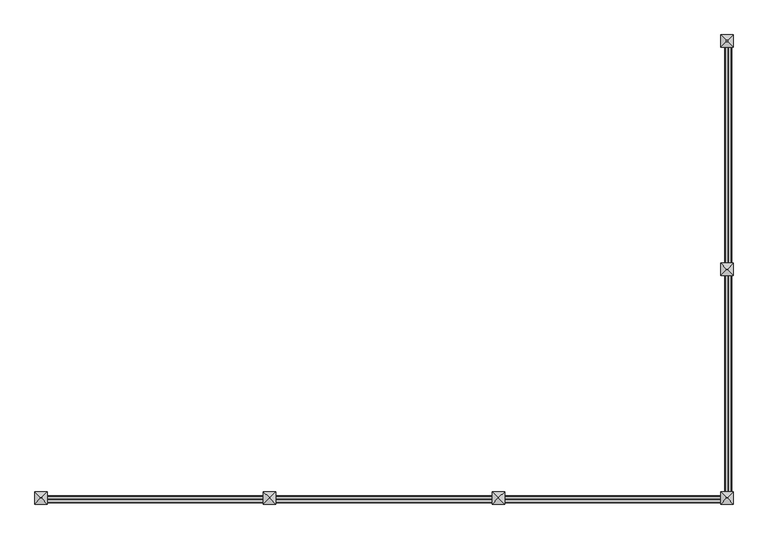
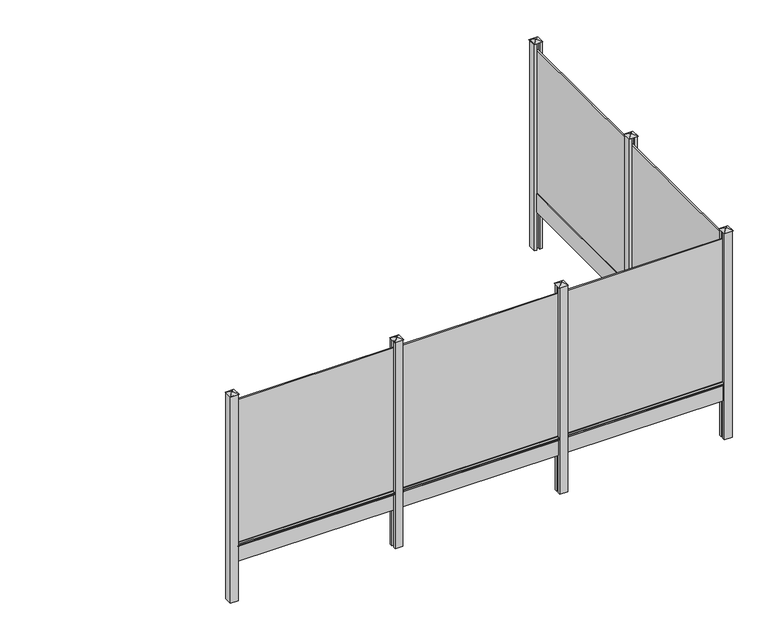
"""IFC4 building model written with IfcOpenShell, lengths in millimetres: railing geometry, Mehat - Railing - Plaque de Soubassement - Classique pour clôture rigide - 202.5x25x3.8 cm."""

from ifc_helpers import new_model, si_unit, point, frame, frame_2d, origin, origin_with_axes, place, context, project, spatial, polyline, circle_curve, trimmed, segment, composite_curve, outline, extrude, faceted_brep, source, transform, mapped, element, save


def railing_0396a7d8(model_context):
    return source(origin(), model_context, "Body", "SolidModel", [
        extrude(outline(polyline([(102357.2728823, -11586.7922579), (102340.2728823, -11586.7922579), (102340.2728823, -9561.7922579), (102357.2728823, -9561.7922579), (102357.2728823, -11586.7922579)])), frame((0.0, 0.0, 250.0), z_axis=(0.0, 0.0, 1.0), x_axis=(1.0, 0.0, 0.0)), (0.0, 0.0, 1.0), 1900.0),
        extrude(outline(polyline([(102367.7728823, -11586.7922579), (102329.7728823, -11586.7922579), (102329.7728823, -9561.7922579), (102367.7728823, -9561.7922579), (102367.7728823, -11586.7922579)])), origin_with_axes(), (0.0, 0.0, 1.0), 250.0),
        extrude(outline(composite_curve([segment(polyline([(210.0, 102367.7728823), (217.1937129, 102389.3540211)]), True, "CONTINUOUS"), segment(trimmed(circle_curve(frame_2d((221.9371294, 102387.7728823)), 5.0), [point((217.1937129, 102389.3540211))], [point((221.9371294, 102392.7728823))], False, "CARTESIAN"), True, "CONTINUOUS"), segment(polyline([(221.9371294, 102392.7728823), (238.0628706, 102392.7728823)]), True, "CONTINUOUS"), segment(trimmed(circle_curve(frame_2d((238.0628706, 102387.7728823)), 5.0), [point((238.0628706, 102392.7728823))], [point((242.8062871, 102389.3540211))], False, "CARTESIAN"), True, "CONTINUOUS"), segment(polyline([(242.8062871, 102389.3540211), (250.0, 102367.7728823), (210.0, 102367.7728823)]), True, "CONTINUOUS")], self_intersect=False)), frame((0.0, -11561.7922579, 0.0), z_axis=(0.0, 1.0, 0.0), x_axis=(0.0, 0.0, 1.0)), (0.0, 0.0, 1.0), 1975.0),
        extrude(outline(polyline([(102398.7728823, -11661.7922579), (102367.7728823, -11661.7922579), (102367.7728823, -11636.7922579), (102329.7728823, -11636.7922579), (102329.7728823, -11661.7922579), (102298.7728823, -11661.7922579), (102298.7728823, -11561.7922579), (102329.7728823, -11561.7922579), (102329.7728823, -11586.7922579), (102367.7728823, -11586.7922579), (102367.7728823, -11561.7922579), (102398.7728823, -11561.7922579), (102398.7728823, -11661.7922579)])), frame((0.0, 0.0, -500.0), z_axis=(0.0, 0.0, 1.0), x_axis=(1.0, 0.0, 0.0)), (0.0, 0.0, 1.0), 2750.0),
        faceted_brep([(102342.3683362, -11605.4422579, 2275.4), (102342.3683362, -11618.1422579, 2275.4), (102355.0683362, -11618.1422579, 2275.4), (102355.0683362, -11605.4422579, 2275.4), (102292.4228823, -11555.4422579, 2250.0), (102405.1228823, -11555.4422579, 2250.0), (102405.1228823, -11668.1422579, 2250.0), (102292.4228823, -11668.1422579, 2250.0)], [[[0, 1, 2, 3]], [[4, 5, 6, 7]], [[4, 0, 3, 5]], [[5, 3, 2, 6]], [[6, 2, 1, 7]], [[7, 1, 0, 4]]]),
        extrude(outline(polyline([(102357.2728823, -13661.7922579), (102340.2728823, -13661.7922579), (102340.2728823, -11636.7922579), (102357.2728823, -11636.7922579), (102357.2728823, -13661.7922579)])), frame((0.0, 0.0, 250.0), z_axis=(0.0, 0.0, 1.0), x_axis=(1.0, 0.0, 0.0)), (0.0, 0.0, 1.0), 1900.0),
        extrude(outline(polyline([(102367.7728823, -13661.7922579), (102329.7728823, -13661.7922579), (102329.7728823, -11636.7922579), (102367.7728823, -11636.7922579), (102367.7728823, -13661.7922579)])), origin_with_axes(), (0.0, 0.0, 1.0), 250.0),
        extrude(outline(composite_curve([segment(polyline([(210.0, 102367.7728823), (217.1937129, 102389.3540211)]), True, "CONTINUOUS"), segment(trimmed(circle_curve(frame_2d((221.9371294, 102387.7728823)), 5.0), [point((217.1937129, 102389.3540211))], [point((221.9371294, 102392.7728823))], False, "CARTESIAN"), True, "CONTINUOUS"), segment(polyline([(221.9371294, 102392.7728823), (238.0628706, 102392.7728823)]), True, "CONTINUOUS"), segment(trimmed(circle_curve(frame_2d((238.0628706, 102387.7728823)), 5.0), [point((238.0628706, 102392.7728823))], [point((242.8062871, 102389.3540211))], False, "CARTESIAN"), True, "CONTINUOUS"), segment(polyline([(242.8062871, 102389.3540211), (250.0, 102367.7728823), (210.0, 102367.7728823)]), True, "CONTINUOUS")], self_intersect=False)), frame((0.0, -13636.7922579, 0.0), z_axis=(0.0, 1.0, 0.0), x_axis=(0.0, 0.0, 1.0)), (0.0, 0.0, 1.0), 1975.0),
        extrude(outline(polyline([(100298.7728823, -13695.2922579), (100298.7728823, -13678.2922579), (102323.7728823, -13678.2922579), (102323.7728823, -13695.2922579), (100298.7728823, -13695.2922579)])), frame((0.0, 0.0, 250.0), z_axis=(0.0, 0.0, 1.0), x_axis=(1.0, 0.0, 0.0)), (0.0, 0.0, 1.0), 1900.0),
        extrude(outline(polyline([(100298.7728823, -13705.7922579), (100298.7728823, -13667.7922579), (102323.7728823, -13667.7922579), (102323.7728823, -13705.7922579), (100298.7728823, -13705.7922579)])), origin_with_axes(), (0.0, 0.0, 1.0), 250.0),
        extrude(outline(composite_curve([segment(polyline([(-13705.7922579, 210.0), (-13727.3733967, 217.1937129)]), True, "CONTINUOUS"), segment(trimmed(circle_curve(frame_2d((-13725.7922579, 221.9371294)), 5.0), [point((-13727.3733967, 217.1937129))], [point((-13730.7922579, 221.9371294))], False, "CARTESIAN"), True, "CONTINUOUS"), segment(polyline([(-13730.7922579, 221.9371294), (-13730.7922579, 238.0628706)]), True, "CONTINUOUS"), segment(trimmed(circle_curve(frame_2d((-13725.7922579, 238.0628706)), 5.0), [point((-13730.7922579, 238.0628706))], [point((-13727.3733967, 242.8062871))], False, "CARTESIAN"), True, "CONTINUOUS"), segment(polyline([(-13727.3733967, 242.8062871), (-13705.7922579, 250.0), (-13705.7922579, 210.0)]), True, "CONTINUOUS")], self_intersect=False)), frame((100323.7728823, 0.0, 0.0), z_axis=(1.0, 0.0, 0.0), x_axis=(0.0, 1.0, 0.0)), (0.0, 0.0, 1.0), 1975.0),
        extrude(outline(polyline([(100223.7728823, -13736.7922579), (100223.7728823, -13705.7922579), (100248.7728823, -13705.7922579), (100248.7728823, -13667.7922579), (100223.7728823, -13667.7922579), (100223.7728823, -13636.7922579), (100323.7728823, -13636.7922579), (100323.7728823, -13667.7922579), (100298.7728823, -13667.7922579), (100298.7728823, -13705.7922579), (100323.7728823, -13705.7922579), (100323.7728823, -13736.7922579), (100223.7728823, -13736.7922579)])), frame((0.0, 0.0, -500.0), z_axis=(0.0, 0.0, 1.0), x_axis=(1.0, 0.0, 0.0)), (0.0, 0.0, 1.0), 2750.0),
        faceted_brep([(100280.1228823, -13680.3877118, 2275.4), (100267.4228823, -13680.3877118, 2275.4), (100267.4228823, -13693.0877118, 2275.4), (100280.1228823, -13693.0877118, 2275.4), (100330.1228823, -13630.4422579, 2250.0), (100330.1228823, -13743.1422579, 2250.0), (100217.4228823, -13743.1422579, 2250.0), (100217.4228823, -13630.4422579, 2250.0)], [[[0, 1, 2, 3]], [[4, 5, 6, 7]], [[4, 0, 3, 5]], [[5, 3, 2, 6]], [[6, 2, 1, 7]], [[7, 1, 0, 4]]]),
        extrude(outline(polyline([(98223.7728823, -13695.2922579), (98223.7728823, -13678.2922579), (100248.7728823, -13678.2922579), (100248.7728823, -13695.2922579), (98223.7728823, -13695.2922579)])), frame((0.0, 0.0, 250.0), z_axis=(0.0, 0.0, 1.0), x_axis=(1.0, 0.0, 0.0)), (0.0, 0.0, 1.0), 1900.0),
        extrude(outline(polyline([(98223.7728823, -13705.7922579), (98223.7728823, -13667.7922579), (100248.7728823, -13667.7922579), (100248.7728823, -13705.7922579), (98223.7728823, -13705.7922579)])), origin_with_axes(), (0.0, 0.0, 1.0), 250.0),
        extrude(outline(composite_curve([segment(polyline([(-13705.7922579, 210.0), (-13727.3733967, 217.1937129)]), True, "CONTINUOUS"), segment(trimmed(circle_curve(frame_2d((-13725.7922579, 221.9371294)), 5.0), [point((-13727.3733967, 217.1937129))], [point((-13730.7922579, 221.9371294))], False, "CARTESIAN"), True, "CONTINUOUS"), segment(polyline([(-13730.7922579, 221.9371294), (-13730.7922579, 238.0628706)]), True, "CONTINUOUS"), segment(trimmed(circle_curve(frame_2d((-13725.7922579, 238.0628706)), 5.0), [point((-13730.7922579, 238.0628706))], [point((-13727.3733967, 242.8062871))], False, "CARTESIAN"), True, "CONTINUOUS"), segment(polyline([(-13727.3733967, 242.8062871), (-13705.7922579, 250.0), (-13705.7922579, 210.0)]), True, "CONTINUOUS")], self_intersect=False)), frame((98248.7728823, 0.0, 0.0), z_axis=(1.0, 0.0, 0.0), x_axis=(0.0, 1.0, 0.0)), (0.0, 0.0, 1.0), 1975.0),
        extrude(outline(polyline([(98148.7728823, -13736.7922579), (98148.7728823, -13705.7922579), (98173.7728823, -13705.7922579), (98173.7728823, -13667.7922579), (98148.7728823, -13667.7922579), (98148.7728823, -13636.7922579), (98248.7728823, -13636.7922579), (98248.7728823, -13667.7922579), (98223.7728823, -13667.7922579), (98223.7728823, -13705.7922579), (98248.7728823, -13705.7922579), (98248.7728823, -13736.7922579), (98148.7728823, -13736.7922579)])), frame((0.0, 0.0, -500.0), z_axis=(0.0, 0.0, 1.0), x_axis=(1.0, 0.0, 0.0)), (0.0, 0.0, 1.0), 2750.0),
        faceted_brep([(98205.1228823, -13680.3877118, 2275.4), (98192.4228823, -13680.3877118, 2275.4), (98192.4228823, -13693.0877118, 2275.4), (98205.1228823, -13693.0877118, 2275.4), (98255.1228823, -13630.4422579, 2250.0), (98255.1228823, -13743.1422579, 2250.0), (98142.4228823, -13743.1422579, 2250.0), (98142.4228823, -13630.4422579, 2250.0)], [[[0, 1, 2, 3]], [[4, 5, 6, 7]], [[4, 0, 3, 5]], [[5, 3, 2, 6]], [[6, 2, 1, 7]], [[7, 1, 0, 4]]]),
        extrude(outline(polyline([(96148.7728823, -13695.2922579), (96148.7728823, -13678.2922579), (98173.7728823, -13678.2922579), (98173.7728823, -13695.2922579), (96148.7728823, -13695.2922579)])), frame((0.0, 0.0, 250.0), z_axis=(0.0, 0.0, 1.0), x_axis=(1.0, 0.0, 0.0)), (0.0, 0.0, 1.0), 1900.0),
        extrude(outline(polyline([(96148.7728823, -13705.7922579), (96148.7728823, -13667.7922579), (98173.7728823, -13667.7922579), (98173.7728823, -13705.7922579), (96148.7728823, -13705.7922579)])), origin_with_axes(), (0.0, 0.0, 1.0), 250.0),
        extrude(outline(composite_curve([segment(polyline([(-13705.7922579, 210.0), (-13727.3733967, 217.1937129)]), True, "CONTINUOUS"), segment(trimmed(circle_curve(frame_2d((-13725.7922579, 221.9371294)), 5.0), [point((-13727.3733967, 217.1937129))], [point((-13730.7922579, 221.9371294))], False, "CARTESIAN"), True, "CONTINUOUS"), segment(polyline([(-13730.7922579, 221.9371294), (-13730.7922579, 238.0628706)]), True, "CONTINUOUS"), segment(trimmed(circle_curve(frame_2d((-13725.7922579, 238.0628706)), 5.0), [point((-13730.7922579, 238.0628706))], [point((-13727.3733967, 242.8062871))], False, "CARTESIAN"), True, "CONTINUOUS"), segment(polyline([(-13727.3733967, 242.8062871), (-13705.7922579, 250.0), (-13705.7922579, 210.0)]), True, "CONTINUOUS")], self_intersect=False)), frame((96173.7728823, 0.0, 0.0), z_axis=(1.0, 0.0, 0.0), x_axis=(0.0, 1.0, 0.0)), (0.0, 0.0, 1.0), 1975.0),
        extrude(outline(polyline([(102298.7728823, -13736.7922579), (102298.7728823, -13705.7922579), (102323.7728823, -13705.7922579), (102323.7728823, -13667.7922579), (102298.7728823, -13667.7922579), (102298.7728823, -13636.7922579), (102329.7728823, -13636.7922579), (102329.7728823, -13661.7922579), (102367.7728823, -13661.7922579), (102367.7728823, -13636.7922579), (102398.7728823, -13636.7922579), (102398.7728823, -13736.7922579), (102298.7728823, -13736.7922579)])), frame((0.0, 0.0, -500.0), z_axis=(0.0, 0.0, 1.0), x_axis=(1.0, 0.0, 0.0)), (0.0, 0.0, 1.0), 2750.0),
        faceted_brep([(102355.1228823, -13680.3877118, 2275.4), (102342.4228823, -13680.3877118, 2275.4), (102342.4228823, -13693.0877118, 2275.4), (102355.1228823, -13693.0877118, 2275.4), (102405.1228823, -13630.4422579, 2250.0), (102405.1228823, -13743.1422579, 2250.0), (102292.4228823, -13743.1422579, 2250.0), (102292.4228823, -13630.4422579, 2250.0)], [[[0, 1, 2, 3]], [[4, 5, 6, 7]], [[4, 0, 3, 5]], [[5, 3, 2, 6]], [[6, 2, 1, 7]], [[7, 1, 0, 4]]]),
        extrude(outline(polyline([(102398.7728823, -9586.7922579), (102367.7728823, -9586.7922579), (102367.7728823, -9561.7922579), (102329.7728823, -9561.7922579), (102329.7728823, -9586.7922579), (102298.7728823, -9586.7922579), (102298.7728823, -9486.7922579), (102398.7728823, -9486.7922579), (102398.7728823, -9586.7922579)])), frame((0.0, 0.0, -500.0), z_axis=(0.0, 0.0, 1.0), x_axis=(1.0, 0.0, 0.0)), (0.0, 0.0, 1.0), 2750.0),
        faceted_brep([(102342.3683362, -9530.4422579, 2275.4), (102342.3683362, -9543.1422579, 2275.4), (102355.0683362, -9543.1422579, 2275.4), (102355.0683362, -9530.4422579, 2275.4), (102292.4228823, -9480.4422579, 2250.0), (102405.1228823, -9480.4422579, 2250.0), (102405.1228823, -9593.1422579, 2250.0), (102292.4228823, -9593.1422579, 2250.0)], [[[0, 1, 2, 3]], [[4, 5, 6, 7]], [[4, 0, 3, 5]], [[5, 3, 2, 6]], [[6, 2, 1, 7]], [[7, 1, 0, 4]]]),
        extrude(outline(polyline([(96073.7728823, -13736.7922579), (96073.7728823, -13636.7922579), (96173.7728823, -13636.7922579), (96173.7728823, -13667.7922579), (96148.7728823, -13667.7922579), (96148.7728823, -13705.7922579), (96173.7728823, -13705.7922579), (96173.7728823, -13736.7922579), (96073.7728823, -13736.7922579)])), frame((0.0, 0.0, -500.0), z_axis=(0.0, 0.0, 1.0), x_axis=(1.0, 0.0, 0.0)), (0.0, 0.0, 1.0), 2750.0),
        faceted_brep([(96130.1228823, -13680.3877118, 2275.4), (96117.4228823, -13680.3877118, 2275.4), (96117.4228823, -13693.0877118, 2275.4), (96130.1228823, -13693.0877118, 2275.4), (96180.1228823, -13630.4422579, 2250.0), (96180.1228823, -13743.1422579, 2250.0), (96067.4228823, -13743.1422579, 2250.0), (96067.4228823, -13630.4422579, 2250.0)], [[[0, 1, 2, 3]], [[4, 5, 6, 7]], [[4, 0, 3, 5]], [[5, 3, 2, 6]], [[6, 2, 1, 7]], [[7, 1, 0, 4]]]),
    ])


if __name__ == "__main__":
    model = new_model("IFC4")
    model_context = context("Model", 3, world=origin())
    ifc_project = project(units=[si_unit("LENGTHUNIT", "METRE", prefix="MILLI")], contexts=[model_context])
    site = spatial("IfcSite", under=ifc_project)
    building = spatial("IfcBuilding", under=site)
    placement = place(None, origin())
    railing_shape = railing_0396a7d8(model_context)
    element("IfcRailing", 1, ObjectType="Mehat - Railing - Plaque de Soubassement - Classique pour clôture rigide - 202.5x25x3.8 cm", at=placement, inside=building, context=model_context, shape_type="MappedRepresentation", body=[
        mapped(railing_shape, transform((0.0, 0.0, 0.0), x_axis=(1.0, 0.0, 0.0), y_axis=(0.0, 1.0, 0.0), z_axis=(0.0, 0.0, 1.0))),
    ])
    save(model, "model.ifc")
